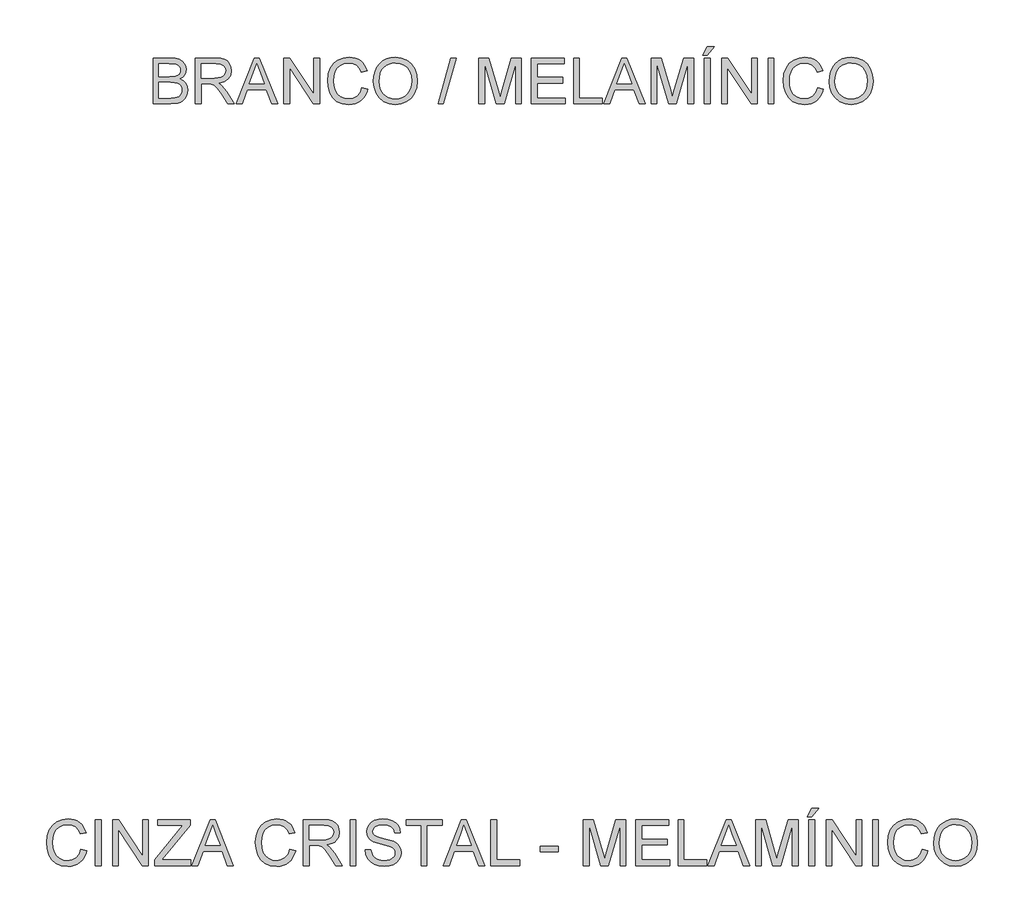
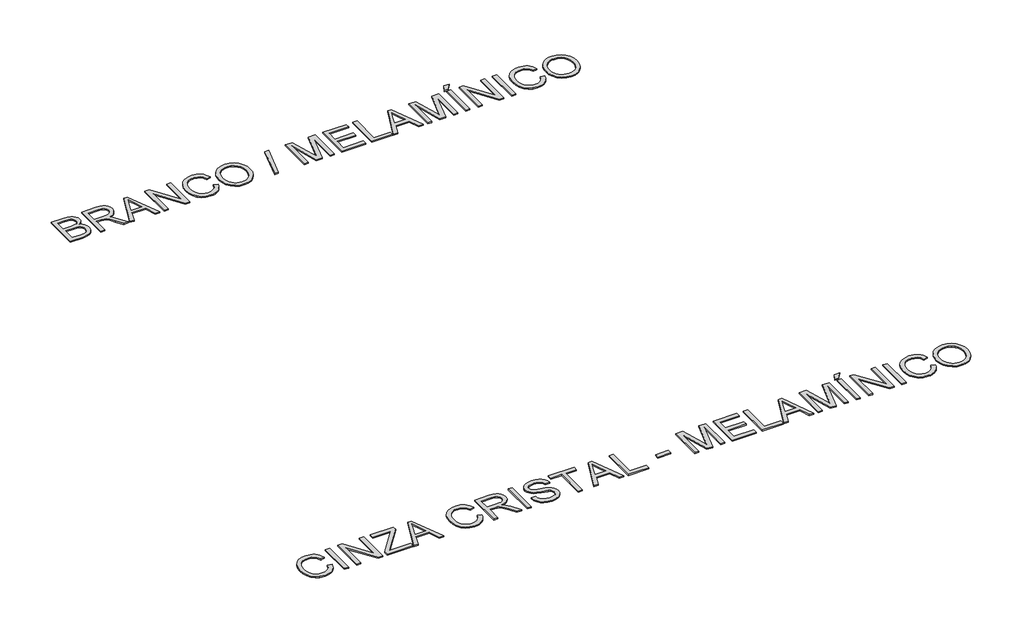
# One storey, part 33 of 67: 2 proxies.
"""IFC4 building model written with IfcOpenShell, lengths in millimetres."""

from ifc_helpers import new_model, si_unit, origin, origin_with_axes, place, context, project, spatial, polyline, outline, extrude, element, save

model = new_model("IFC4")

# Units and contexts
model_context = context("Model", 3, world=origin())
ifc_project = project(units=[si_unit("LENGTHUNIT", "METRE", prefix="MILLI")], contexts=[model_context])

# Site, building, storey
site = spatial("IfcSite", under=ifc_project)
building = spatial("IfcBuilding", under=site)
storey = spatial("IfcBuildingStorey", under=building, Name="Marelli - Linha COLAB - Planta Baixa", Elevation=0.0)

# Proxies
placement = place(None, origin())
element("IfcBuildingElementProxy", 1, Name="300mm Arial", ObjectType="300mm Arial", at=placement, inside=storey, context=model_context, shape_type="SweptSolid", body=[
    extrude(outline(polyline([(31047.4684455, -102530.5663201), (31047.4684455, -102229.1973896), (31162.4683572, -102229.1973896), (31194.0970117, -102231.4138786), (31218.7910906, -102238.0633457), (31237.7186193, -102249.3113377), (31252.047623, -102265.3234015), (31261.0699289, -102284.1589597), (31264.0773642, -102303.8774346), (31261.5481755, -102322.0232141), (31253.9606094, -102339.0837416), (31241.2594835, -102354.0105535), (31223.3896156, -102365.7551862), (31244.7359683, -102376.9020107), (31260.5089089, -102393.8613707), (31270.2485847, -102415.5112261), (31273.4951433, -102440.7295368), (31271.2786543, -102461.7447958), (31264.6291872, -102481.2333445), (31254.7055704, -102497.8064284), (31242.6666321, -102510.0752929), (31227.9237611, -102518.9596431), (31209.8883463, -102525.3791839), (31161.5854404, -102530.5663201), (31047.4684455, -102530.5663201)]), holes=[polyline([(31085.1395618, -102351.6285176), (31153.9334949, -102351.6285176), (31194.1062087, -102348.3911561), (31208.168498, -102342.8085468), (31218.2760558, -102334.4484284), (31224.3736999, -102323.4395597), (31226.4062479, -102309.9106994), (31224.5116556, -102296.7773121), (31218.8278788, -102285.3361821), (31209.6124348, -102276.4058467), (31197.1228411, -102270.8048433), (31148.7095705, -102266.8685059), (31085.1395618, -102266.8685059), (31085.1395618, -102351.6285176)]), polyline([(31085.1395618, -102492.8952038), (31162.3947808, -102492.8952038), (31190.3538124, -102491.4236758), (31214.0086247, -102483.2199073), (31229.6803977, -102466.4812765), (31234.2881197, -102454.6538704), (31235.824027, -102441.0974188), (31234.0214052, -102425.3520694), (31228.6135399, -102411.814012), (31219.1681697, -102401.2282076), (31205.2530332, -102394.3396173), (31185.5437553, -102390.5596298), (31158.7159608, -102389.2996339), (31085.1395618, -102389.2996339), (31085.1395618, -102492.8952038)])]), origin_with_axes(), (0.0, 0.0, 1.0), 10.0),
    extrude(outline(polyline([(31325.2929282, -102530.5663201), (31325.2929282, -102229.1973896), (31455.1552725, -102229.1973896), (31490.0580768, -102231.2299376), (31515.4511315, -102237.3275817), (31534.0107782, -102248.5847708), (31548.4133583, -102266.0959537), (31557.6563934, -102287.8101885), (31560.7374051, -102311.6765329), (31555.6330425, -102341.3646099), (31540.3199544, -102365.9759154), (31528.7201752, -102376.0052983), (31514.3382885, -102384.0205273), (31477.2281922, -102394.0085235), (31498.6389244, -102410.1217548), (31529.1731299, -102448.8965171), (31579.4258105, -102530.5663201), (31535.6478531, -102530.5663201), (31496.4316324, -102468.0999573), (31468.1047188, -102426.750021), (31448.2023028, -102407.2154871), (31430.2864496, -102400.0417882), (31408.4342591, -102398.717413), (31362.9640445, -102398.717413), (31362.9640445, -102530.5663201), (31325.2929282, -102530.5663201)]), holes=[polyline([(31362.9640445, -102361.0462967), (31447.2825978, -102361.0462967), (31471.4984302, -102359.7127245), (31490.2880031, -102355.7120078), (31504.4330658, -102348.7774322), (31514.7153675, -102338.6422832), (31520.9785585, -102326.3826157), (31523.0662888, -102313.0744845), (31519.0839662, -102294.6987789), (31507.1369984, -102279.8915286), (31486.581592, -102270.1242616), (31456.7739533, -102266.8685059), (31362.9640445, -102266.8685059), (31362.9640445, -102361.0462967)])]), origin_with_axes(), (0.0, 0.0, 1.0), 10.0),
    extrude(outline(polyline([(31591.5659163, -102530.5663201), (31711.8633288, -102229.1973896), (31743.9426387, -102229.1973896), (31864.2400512, -102530.5663201), (31824.4352193, -102530.5663201), (31789.9278881, -102436.3885293), (31665.804503, -102436.3885293), (31631.3707482, -102530.5663201), (31591.5659163, -102530.5663201)]), holes=[polyline([(31679.636866, -102398.717413), (31776.1691015, -102398.717413), (31749.0194103, -102324.6259792), (31727.9029837, -102266.8685059), (31709.141002, -102318.1512561), (31679.636866, -102398.717413)])]), origin_with_axes(), (0.0, 0.0, 1.0), 10.0),
    extrude(outline(polyline([(31904.4863414, -102530.5663201), (31904.4863414, -102229.1973896), (31944.8062081, -102229.1973896), (32102.259702, -102467.9528045), (32102.259702, -102229.1973896), (32139.9308183, -102229.1973896), (32139.9308183, -102530.5663201), (32099.6109517, -102530.5663201), (31942.1574577, -102291.7373288), (31942.1574577, -102530.5663201), (31904.4863414, -102530.5663201)])), origin_with_axes(), (0.0, 0.0, 1.0), 10.0),
    extrude(outline(polyline([(32417.7553011, -102423.4390831), (32455.4264174, -102433.1511677), (32447.9722085, -102456.5783531), (32438.0439931, -102477.0486868), (32425.6417714, -102494.5621691), (32410.7655432, -102509.1187997), (32393.7510009, -102520.5622291), (32374.9338369, -102528.7361071), (32354.314051, -102533.640434), (32331.8916434, -102535.2752096), (32288.1964594, -102530.3271968), (32253.4959903, -102515.4831583), (32226.898122, -102491.2581289), (32207.5107409, -102458.1671434), (32195.6741377, -102419.2636224), (32191.7286033, -102377.6009865), (32196.1891725, -102333.6574821), (32209.57088, -102295.7104543), (32231.1747502, -102264.9647166), (32260.3018072, -102242.6250824), (32294.8459265, -102229.0226457), (32332.7009838, -102224.4885001), (32374.0049348, -102230.3562179), (32391.973671, -102237.6908652), (32408.153581, -102247.9593714), (32422.2779504, -102260.8904235), (32434.0800646, -102276.2127086), (32450.7175279, -102314.0309777), (32413.0464116, -102323.0072984), (32399.9866007, -102295.5357104), (32382.144324, -102276.6909552), (32359.2988521, -102265.7924511), (32331.2294558, -102262.1596164), (32298.8742344, -102266.1879242), (32272.2947602, -102278.2728478), (32252.1256298, -102297.1451941), (32239.0014396, -102321.5357704), (32231.8001496, -102349.1085259), (32229.3997196, -102377.5274101), (32232.241608, -102412.3290468), (32240.7672732, -102442.421794), (32255.298612, -102466.6560205), (32276.1575212, -102483.8820949), (32301.1642998, -102494.1735937), (32328.1392471, -102497.6040933), (32359.5839606, -102492.931992), (32385.7863557, -102478.9156879), (32405.56921, -102455.702334), (32417.7553011, -102423.4390831)])), origin_with_axes(), (0.0, 0.0, 1.0), 10.0),
    extrude(outline(polyline([(32493.0975337, -102383.8549804), (32495.6083283, -102348.5061192), (32503.1407122, -102317.213157), (32515.6946853, -102289.9760937), (32533.2702476, -102266.7949295), (32554.8143369, -102248.2858666), (32579.2738911, -102235.0651074), (32606.64891, -102227.1326519), (32636.9393938, -102224.4885001), (32676.4683142, -102229.454907), (32711.9137444, -102244.3541278), (32741.3443041, -102268.1376988), (32762.8286126, -102299.7571563), (32775.9619998, -102337.68579), (32780.3397955, -102380.3968896), (32775.7320736, -102423.6782064), (32761.9089076, -102462.140269), (32739.6336528, -102493.8149087), (32709.6696643, -102516.733957), (32674.5277367, -102530.6398965), (32636.7186646, -102535.2752096), (32596.582739, -102530.1524528), (32560.9349736, -102514.7841825), (32531.5779904, -102490.5591531), (32510.3144111, -102458.8661192), (32497.4017531, -102422.3998164), (32493.0975337, -102383.8549804)]), holes=[polyline([(32530.76865, -102384.2228624), (32532.651746, -102409.1974513), (32538.3010339, -102431.3669401), (32547.7165137, -102450.7313286), (32560.8981854, -102467.2906169), (32576.9217456, -102480.5527628), (32594.8628906, -102490.0257242), (32614.7216206, -102495.709501), (32636.4979354, -102497.6040933), (32658.6467308, -102495.6911069), (32678.7399855, -102489.9521478), (32696.7776996, -102480.3872159), (32712.759873, -102466.9963113), (32725.8449757, -102450.0875351), (32735.1914777, -102429.9689885), (32740.7993789, -102406.6406715), (32742.6686792, -102380.102584), (32739.4681059, -102346.7540812), (32729.8663858, -102317.9305269), (32714.1118394, -102294.358488), (32692.4527869, -102276.7645316), (32666.3239682, -102265.8108452), (32637.160123, -102262.1596164), (32616.1402655, -102263.9185522), (32596.6379213, -102269.1953595), (32578.6530902, -102277.9900385), (32562.1857724, -102290.302589), (32548.4407814, -102306.7262208), (32538.6229306, -102327.8541437), (32532.7322202, -102353.6863575), (32530.76865, -102384.2228624)])]), origin_with_axes(), (0.0, 0.0, 1.0), 10.0),
    extrude(outline(polyline([(32916.8975922, -102530.5663201), (33001.6576038, -102229.1973896), (33035.6499002, -102229.1973896), (32950.8898885, -102530.5663201), (32916.8975922, -102530.5663201)])), origin_with_axes(), (0.0, 0.0, 1.0), 10.0),
    extrude(outline(polyline([(33185.3042958, -102530.5663201), (33185.3042958, -102229.1973896), (33250.1251034, -102229.1973896), (33311.7821258, -102441.6124536), (33324.2165372, -102485.9790223), (33337.6810182, -102437.9336337), (33398.307971, -102229.1973896), (33463.1287786, -102229.1973896), (33463.1287786, -102530.5663201), (33425.4576623, -102530.5663201), (33425.4576623, -102266.8685059), (33349.7475477, -102530.5663201), (33298.6855268, -102530.5663201), (33222.9754121, -102266.8685059), (33222.9754121, -102530.5663201), (33185.3042958, -102530.5663201)])), origin_with_axes(), (0.0, 0.0, 1.0), 10.0),
    extrude(outline(polyline([(33529.0532321, -102530.5663201), (33529.0532321, -102229.1973896), (33745.6621509, -102229.1973896), (33745.6621509, -102266.8685059), (33566.7243484, -102266.8685059), (33566.7243484, -102356.3374072), (33736.2443718, -102356.3374072), (33736.2443718, -102394.0085235), (33566.7243484, -102394.0085235), (33566.7243484, -102492.8952038), (33750.3710404, -102492.8952038), (33750.3710404, -102530.5663201), (33529.0532321, -102530.5663201)])), origin_with_axes(), (0.0, 0.0, 1.0), 10.0),
    extrude(outline(polyline([(33806.8777149, -102530.5663201), (33806.8777149, -102229.1973896), (33844.5488312, -102229.1973896), (33844.5488312, -102492.8952038), (33995.2332964, -102492.8952038), (33995.2332964, -102530.5663201), (33806.8777149, -102530.5663201)])), origin_with_axes(), (0.0, 0.0, 1.0), 10.0),
    extrude(outline(polyline([(34002.5173599, -102530.5663201), (34122.8147723, -102229.1973896), (34154.8940823, -102229.1973896), (34275.1914947, -102530.5663201), (34235.3866629, -102530.5663201), (34200.8793317, -102436.3885293), (34076.7559465, -102436.3885293), (34042.3221918, -102530.5663201), (34002.5173599, -102530.5663201)]), holes=[polyline([(34090.5883096, -102398.717413), (34187.1205451, -102398.717413), (34159.9708539, -102324.6259792), (34138.8544273, -102266.8685059), (34120.0924456, -102318.1512561), (34090.5883096, -102398.717413)])]), origin_with_axes(), (0.0, 0.0, 1.0), 10.0),
    extrude(outline(polyline([(34315.437785, -102530.5663201), (34315.437785, -102229.1973896), (34380.2585926, -102229.1973896), (34441.915615, -102441.6124536), (34454.3500264, -102485.9790223), (34467.8145074, -102437.9336337), (34528.4414602, -102229.1973896), (34593.2622678, -102229.1973896), (34593.2622678, -102530.5663201), (34555.5911515, -102530.5663201), (34555.5911515, -102266.8685059), (34479.8810369, -102530.5663201), (34428.8190159, -102530.5663201), (34353.1089013, -102266.8685059), (34353.1089013, -102530.5663201), (34315.437785, -102530.5663201)])), origin_with_axes(), (0.0, 0.0, 1.0), 10.0),
    extrude(outline(polyline([(34654.4778318, -102210.3618315), (34682.731169, -102153.855157), (34729.8200644, -102153.855157), (34682.731169, -102210.3618315), (34654.4778318, -102210.3618315)])), origin_with_axes(), (0.0, 0.0, 1.0), 10.0),
    extrude(outline(polyline([(34663.8956109, -102530.5663201), (34663.8956109, -102229.1973896), (34701.5667272, -102229.1973896), (34701.5667272, -102530.5663201), (34663.8956109, -102530.5663201)])), origin_with_axes(), (0.0, 0.0, 1.0), 10.0),
    extrude(outline(polyline([(34776.9089598, -102530.5663201), (34776.9089598, -102229.1973896), (34817.2288264, -102229.1973896), (34974.6823204, -102467.9528045), (34974.6823204, -102229.1973896), (35012.3534367, -102229.1973896), (35012.3534367, -102530.5663201), (34972.03357, -102530.5663201), (34814.5800761, -102291.7373288), (34814.5800761, -102530.5663201), (34776.9089598, -102530.5663201)])), origin_with_axes(), (0.0, 0.0, 1.0), 10.0),
    extrude(outline(polyline([(35082.9867798, -102530.5663201), (35082.9867798, -102229.1973896), (35120.6578961, -102229.1973896), (35120.6578961, -102530.5663201), (35082.9867798, -102530.5663201)])), origin_with_axes(), (0.0, 0.0, 1.0), 10.0),
    extrude(outline(polyline([(35407.9001579, -102423.4390831), (35445.5712742, -102433.1511677), (35438.1170653, -102456.5783531), (35428.1888499, -102477.0486868), (35415.7866282, -102494.5621691), (35400.9104, -102509.1187997), (35383.8958577, -102520.5622291), (35365.0786937, -102528.7361071), (35344.4589078, -102533.640434), (35322.0365002, -102535.2752096), (35278.3413162, -102530.3271968), (35243.6408471, -102515.4831583), (35217.0429788, -102491.2581289), (35197.6555977, -102458.1671434), (35185.8189945, -102419.2636224), (35181.8734601, -102377.6009865), (35186.3340293, -102333.6574821), (35199.7157368, -102295.7104543), (35221.319607, -102264.9647166), (35250.446664, -102242.6250824), (35284.9907833, -102229.0226457), (35322.8458406, -102224.4885001), (35364.1497916, -102230.3562179), (35382.1185278, -102237.6908652), (35398.2984378, -102247.9593714), (35412.4228072, -102260.8904235), (35424.2249214, -102276.2127086), (35440.8623847, -102314.0309777), (35403.1912684, -102323.0072984), (35390.1314575, -102295.5357104), (35372.2891808, -102276.6909552), (35349.4437089, -102265.7924511), (35321.3743126, -102262.1596164), (35289.0190912, -102266.1879242), (35262.439617, -102278.2728478), (35242.2704866, -102297.1451941), (35229.1462964, -102321.5357704), (35221.9450064, -102349.1085259), (35219.5445764, -102377.5274101), (35222.3864648, -102412.3290468), (35230.91213, -102442.421794), (35245.4434688, -102466.6560205), (35266.302378, -102483.8820949), (35291.3091566, -102494.1735937), (35318.2841039, -102497.6040933), (35349.7288174, -102492.931992), (35375.9312125, -102478.9156879), (35395.7140668, -102455.702334), (35407.9001579, -102423.4390831)])), origin_with_axes(), (0.0, 0.0, 1.0), 10.0),
    extrude(outline(polyline([(35483.2423905, -102383.8549804), (35485.7531851, -102348.5061192), (35493.285569, -102317.213157), (35505.8395421, -102289.9760937), (35523.4151044, -102266.7949295), (35544.9591937, -102248.2858666), (35569.4187479, -102235.0651074), (35596.7937668, -102227.1326519), (35627.0842506, -102224.4885001), (35666.613171, -102229.454907), (35702.0586012, -102244.3541278), (35731.4891609, -102268.1376988), (35752.9734694, -102299.7571563), (35766.1068566, -102337.68579), (35770.4846523, -102380.3968896), (35765.8769304, -102423.6782064), (35752.0537644, -102462.140269), (35729.7785096, -102493.8149087), (35699.8145211, -102516.733957), (35664.6725935, -102530.6398965), (35626.8635214, -102535.2752096), (35586.7275958, -102530.1524528), (35551.0798304, -102514.7841825), (35521.7228472, -102490.5591531), (35500.4592679, -102458.8661192), (35487.5466099, -102422.3998164), (35483.2423905, -102383.8549804)]), holes=[polyline([(35520.9135068, -102384.2228624), (35522.7966028, -102409.1974513), (35528.4458907, -102431.3669401), (35537.8613705, -102450.7313286), (35551.0430422, -102467.2906169), (35567.0666024, -102480.5527628), (35585.0077474, -102490.0257242), (35604.8664774, -102495.709501), (35626.6427922, -102497.6040933), (35648.7915876, -102495.6911069), (35668.8848423, -102489.9521478), (35686.9225564, -102480.3872159), (35702.9047298, -102466.9963113), (35715.9898325, -102450.0875351), (35725.3363345, -102429.9689885), (35730.9442356, -102406.6406715), (35732.813536, -102380.102584), (35729.6129627, -102346.7540812), (35720.0112426, -102317.9305269), (35704.2566962, -102294.358488), (35682.5976437, -102276.7645316), (35656.468825, -102265.8108452), (35627.3049798, -102262.1596164), (35606.2851223, -102263.9185522), (35586.7827781, -102269.1953595), (35568.797947, -102277.9900385), (35552.3306292, -102290.302589), (35538.5856382, -102306.7262208), (35528.7677874, -102327.8541437), (35522.877077, -102353.6863575), (35520.9135068, -102384.2228624)])]), origin_with_axes(), (0.0, 0.0, 1.0), 10.0),
])
element("IfcBuildingElementProxy", 2, Name="300mm Arial", ObjectType="300mm Arial", at=placement, inside=storey, context=model_context, shape_type="SweptSolid", body=[
    extrude(outline(polyline([(30574.2250469, -107423.4390831), (30611.8961632, -107433.1511677), (30604.4419542, -107456.5783531), (30594.5137389, -107477.0486868), (30582.1115171, -107494.5621691), (30567.235289, -107509.1187997), (30550.2207467, -107520.5622291), (30531.4035826, -107528.7361071), (30510.7837968, -107533.640434), (30488.3613892, -107535.2752096), (30444.6662052, -107530.3271968), (30409.965736, -107515.4831583), (30383.3678678, -107491.2581289), (30363.9804866, -107458.1671434), (30352.1438834, -107419.2636224), (30348.198349, -107377.6009865), (30352.6589182, -107333.6574821), (30366.0406258, -107295.7104543), (30387.644496, -107264.9647166), (30416.7715529, -107242.6250824), (30451.3156723, -107229.0226457), (30489.1707296, -107224.4885001), (30530.4746806, -107230.3562179), (30548.4434168, -107237.6908652), (30564.6233268, -107247.9593714), (30578.7476961, -107260.8904235), (30590.5498104, -107276.2127086), (30607.1872736, -107314.0309777), (30569.5161573, -107323.0072984), (30556.4563465, -107295.5357104), (30538.6140697, -107276.6909552), (30515.7685978, -107265.7924511), (30487.6992016, -107262.1596164), (30455.3439801, -107266.1879242), (30428.764506, -107278.2728478), (30408.5953756, -107297.1451941), (30395.4711854, -107321.5357704), (30388.2698954, -107349.1085259), (30385.8694653, -107377.5274101), (30388.7113538, -107412.3290468), (30397.237019, -107442.421794), (30411.7683578, -107466.6560205), (30432.6272669, -107483.8820949), (30457.6340455, -107494.1735937), (30484.6089928, -107497.6040933), (30516.0537064, -107492.931992), (30542.2561015, -107478.9156879), (30562.0389558, -107455.702334), (30574.2250469, -107423.4390831)])), origin_with_axes(), (0.0, 0.0, 1.0), 10.0),
    extrude(outline(polyline([(30668.4028376, -107530.5663201), (30668.4028376, -107229.1973896), (30706.0739539, -107229.1973896), (30706.0739539, -107530.5663201), (30668.4028376, -107530.5663201)])), origin_with_axes(), (0.0, 0.0, 1.0), 10.0),
    extrude(outline(polyline([(30781.4161866, -107530.5663201), (30781.4161866, -107229.1973896), (30821.7360532, -107229.1973896), (30979.1895472, -107467.9528045), (30979.1895472, -107229.1973896), (31016.8606635, -107229.1973896), (31016.8606635, -107530.5663201), (30976.5407968, -107530.5663201), (30819.0873029, -107291.7373288), (30819.0873029, -107530.5663201), (30781.4161866, -107530.5663201)])), origin_with_axes(), (0.0, 0.0, 1.0), 10.0),
    extrude(outline(polyline([(31059.2406693, -107530.5663201), (31059.2406693, -107491.4972522), (31213.3832253, -107302.7737887), (31242.6666321, -107266.8685059), (31078.0762275, -107266.8685059), (31078.0762275, -107229.1973896), (31289.9762567, -107229.1973896), (31289.9762567, -107266.8685059), (31121.2655737, -107473.397458), (31105.3730715, -107492.8952038), (31294.6851462, -107492.8952038), (31294.6851462, -107530.5663201), (31059.2406693, -107530.5663201)])), origin_with_axes(), (0.0, 0.0, 1.0), 10.0),
    extrude(outline(polyline([(31301.9692097, -107530.5663201), (31422.2666222, -107229.1973896), (31454.3459321, -107229.1973896), (31574.6433446, -107530.5663201), (31534.8385127, -107530.5663201), (31500.3311815, -107436.3885293), (31376.2077964, -107436.3885293), (31341.7740416, -107530.5663201), (31301.9692097, -107530.5663201)]), holes=[polyline([(31390.0401594, -107398.717413), (31486.5723949, -107398.717413), (31459.4227037, -107324.6259792), (31438.3062771, -107266.8685059), (31419.5442954, -107318.1512561), (31390.0401594, -107398.717413)])]), origin_with_axes(), (0.0, 0.0, 1.0), 10.0),
    extrude(outline(polyline([(31944.5119025, -107423.4390831), (31982.1830188, -107433.1511677), (31974.7288099, -107456.5783531), (31964.8005945, -107477.0486868), (31952.3983728, -107494.5621691), (31937.5221446, -107509.1187997), (31920.5076023, -107520.5622291), (31901.6904383, -107528.7361071), (31881.0706524, -107533.640434), (31858.6482448, -107535.2752096), (31814.9530609, -107530.3271968), (31780.2525917, -107515.4831583), (31753.6547234, -107491.2581289), (31734.2673423, -107458.1671434), (31722.4307391, -107419.2636224), (31718.4852047, -107377.6009865), (31722.9457739, -107333.6574821), (31736.3274814, -107295.7104543), (31757.9313516, -107264.9647166), (31787.0584086, -107242.6250824), (31821.6025279, -107229.0226457), (31859.4575852, -107224.4885001), (31900.7615362, -107230.3562179), (31918.7302724, -107237.6908652), (31934.9101824, -107247.9593714), (31949.0345518, -107260.8904235), (31960.836666, -107276.2127086), (31977.4741293, -107314.0309777), (31939.803013, -107323.0072984), (31926.7432021, -107295.5357104), (31908.9009254, -107276.6909552), (31886.0554535, -107265.7924511), (31857.9860572, -107262.1596164), (31825.6308358, -107266.1879242), (31799.0513616, -107278.2728478), (31778.8822312, -107297.1451941), (31765.758041, -107321.5357704), (31758.556751, -107349.1085259), (31756.156321, -107377.5274101), (31758.9982094, -107412.3290468), (31767.5238746, -107442.421794), (31782.0552134, -107466.6560205), (31802.9141226, -107483.8820949), (31827.9209012, -107494.1735937), (31854.8958485, -107497.6040933), (31886.340562, -107492.931992), (31912.5429571, -107478.9156879), (31932.3258114, -107455.702334), (31944.5119025, -107423.4390831)])), origin_with_axes(), (0.0, 0.0, 1.0), 10.0),
    extrude(outline(polyline([(32033.9808037, -107530.5663201), (32033.9808037, -107229.1973896), (32163.843148, -107229.1973896), (32198.7459523, -107231.2299376), (32224.139007, -107237.3275817), (32242.6986537, -107248.5847708), (32257.1012338, -107266.0959537), (32266.3442689, -107287.8101885), (32269.4252806, -107311.6765329), (32264.320918, -107341.3646099), (32249.0078299, -107365.9759154), (32237.4080508, -107376.0052983), (32223.026164, -107384.0205273), (32185.9160677, -107394.0085235), (32207.3267999, -107410.1217548), (32237.8610055, -107448.8965171), (32288.113686, -107530.5663201), (32244.3357286, -107530.5663201), (32205.1195079, -107468.0999573), (32176.7925943, -107426.750021), (32156.8901783, -107407.2154871), (32138.9743252, -107400.0417882), (32117.1221346, -107398.717413), (32071.65192, -107398.717413), (32071.65192, -107530.5663201), (32033.9808037, -107530.5663201)]), holes=[polyline([(32071.65192, -107361.0462967), (32155.9704733, -107361.0462967), (32180.1863057, -107359.7127245), (32198.9758786, -107355.7120078), (32213.1209413, -107348.7774322), (32223.403243, -107338.6422832), (32229.666434, -107326.3826157), (32231.7541643, -107313.0744845), (32227.7718417, -107294.6987789), (32215.8248739, -107279.8915286), (32195.2694675, -107270.1242616), (32165.4618288, -107266.8685059), (32071.65192, -107266.8685059), (32071.65192, -107361.0462967)])]), origin_with_axes(), (0.0, 0.0, 1.0), 10.0),
    extrude(outline(polyline([(32340.0586237, -107530.5663201), (32340.0586237, -107229.1973896), (32377.72974, -107229.1973896), (32377.72974, -107530.5663201), (32340.0586237, -107530.5663201)])), origin_with_axes(), (0.0, 0.0, 1.0), 10.0),
    extrude(outline(polyline([(32438.945304, -107426.9707502), (32476.6164203, -107426.9707502), (32480.9390338, -107447.8756446), (32488.7565262, -107464.6786547), (32500.9518143, -107478.0143771), (32518.407815, -107488.517408), (32539.7449707, -107495.332422), (32563.583724, -107497.6040933), (32584.5713918, -107495.884245), (32602.9470975, -107490.7247), (32617.8371212, -107482.5577197), (32628.3677433, -107471.8155654), (32634.6309343, -107459.4823215), (32636.7186646, -107446.5420724), (32635.1551661, -107433.932917), (32630.4646707, -107423.0344129), (32620.936527, -107413.7361954), (32604.8600838, -107405.9279001), (32550.0088784, -107391.5437141), (32514.0024281, -107382.0247675), (32490.9638181, -107372.9656733), (32472.2110334, -107360.2921386), (32458.9212964, -107344.9330653), (32451.0026364, -107327.2195472), (32448.3630831, -107307.4826782), (32451.6280358, -107285.4189555), (32461.4228939, -107264.845155), (32477.4901401, -107247.4075484), (32499.5722568, -107234.7524077), (32526.0781546, -107227.054477), (32555.4167437, -107224.4885001), (32587.2017481, -107227.1740386), (32615.0136269, -107235.2306543), (32637.8590988, -107248.4928003), (32654.7448824, -107266.7949295), (32665.4318544, -107288.9966079), (32669.6808914, -107313.9574013), (32632.0097751, -107313.9574013), (32625.0935936, -107291.4798114), (32610.6726194, -107275.2562154), (32588.1398472, -107265.4337661), (32556.8882717, -107262.1596164), (32524.9009322, -107265.3969779), (32502.9567712, -107275.1090626), (32490.2648423, -107289.4012781), (32486.0341994, -107306.3790322), (32489.0324377, -107320.8551887), (32498.0271524, -107332.4986539), (32519.2907318, -107342.9097143), (32559.537022, -107353.541504), (32601.0708993, -107363.6398648), (32626.1972396, -107372.4506385), (32647.672351, -107386.1174547), (32662.6543453, -107402.9848441), (32671.455922, -107422.868866), (32674.3897809, -107445.5855792), (32671.0144636, -107468.8081301), (32660.8885117, -107490.6511236), (32644.4257924, -107509.4498935), (32622.040173, -107523.539774), (32595.120408, -107532.3413507), (32565.055252, -107535.2752096), (32528.1474908, -107532.1114244), (32497.7696351, -107522.620069), (32473.5721968, -107506.764355), (32455.2056882, -107484.5074943), (32443.4150703, -107457.3945912), (32438.945304, -107426.9707502)])), origin_with_axes(), (0.0, 0.0, 1.0), 10.0),
    extrude(outline(polyline([(32806.238688, -107530.5663201), (32806.238688, -107266.8685059), (32707.3520077, -107266.8685059), (32707.3520077, -107229.1973896), (32942.7964846, -107229.1973896), (32942.7964846, -107266.8685059), (32843.9098043, -107266.8685059), (32843.9098043, -107530.5663201), (32806.238688, -107530.5663201)])), origin_with_axes(), (0.0, 0.0, 1.0), 10.0),
    extrude(outline(polyline([(32950.0805481, -107530.5663201), (33070.3779605, -107229.1973896), (33102.4572705, -107229.1973896), (33222.7546829, -107530.5663201), (33182.9498511, -107530.5663201), (33148.4425199, -107436.3885293), (33024.3191347, -107436.3885293), (32989.88538, -107530.5663201), (32950.0805481, -107530.5663201)]), holes=[polyline([(33038.1514978, -107398.717413), (33134.6837333, -107398.717413), (33107.5340421, -107324.6259792), (33086.4176155, -107266.8685059), (33067.6556338, -107318.1512561), (33038.1514978, -107398.717413)])]), origin_with_axes(), (0.0, 0.0, 1.0), 10.0),
    extrude(outline(polyline([(33263.0009732, -107530.5663201), (33263.0009732, -107229.1973896), (33300.6720895, -107229.1973896), (33300.6720895, -107492.8952038), (33451.3565547, -107492.8952038), (33451.3565547, -107530.5663201), (33263.0009732, -107530.5663201)])), origin_with_axes(), (0.0, 0.0, 1.0), 10.0),
    extrude(outline(polyline([(33587.9143514, -107441.0974188), (33587.9143514, -107403.4263025), (33705.6365898, -107403.4263025), (33705.6365898, -107441.0974188), (33587.9143514, -107441.0974188)])), origin_with_axes(), (0.0, 0.0, 1.0), 10.0),
    extrude(outline(polyline([(33870.4477237, -107530.5663201), (33870.4477237, -107229.1973896), (33935.2685312, -107229.1973896), (33996.9255536, -107441.6124536), (34009.359965, -107485.9790223), (34022.8244461, -107437.9336337), (34083.4513989, -107229.1973896), (34148.2722064, -107229.1973896), (34148.2722064, -107530.5663201), (34110.6010901, -107530.5663201), (34110.6010901, -107266.8685059), (34034.8909755, -107530.5663201), (33983.8289546, -107530.5663201), (33908.11884, -107266.8685059), (33908.11884, -107530.5663201), (33870.4477237, -107530.5663201)])), origin_with_axes(), (0.0, 0.0, 1.0), 10.0),
    extrude(outline(polyline([(34214.1966599, -107530.5663201), (34214.1966599, -107229.1973896), (34430.8055787, -107229.1973896), (34430.8055787, -107266.8685059), (34251.8677763, -107266.8685059), (34251.8677763, -107356.3374072), (34421.3877996, -107356.3374072), (34421.3877996, -107394.0085235), (34251.8677763, -107394.0085235), (34251.8677763, -107492.8952038), (34435.5144682, -107492.8952038), (34435.5144682, -107530.5663201), (34214.1966599, -107530.5663201)])), origin_with_axes(), (0.0, 0.0, 1.0), 10.0),
    extrude(outline(polyline([(34492.0211427, -107530.5663201), (34492.0211427, -107229.1973896), (34529.692259, -107229.1973896), (34529.692259, -107492.8952038), (34680.3767242, -107492.8952038), (34680.3767242, -107530.5663201), (34492.0211427, -107530.5663201)])), origin_with_axes(), (0.0, 0.0, 1.0), 10.0),
    extrude(outline(polyline([(34687.6607877, -107530.5663201), (34807.9582002, -107229.1973896), (34840.0375101, -107229.1973896), (34960.3349226, -107530.5663201), (34920.5300907, -107530.5663201), (34886.0227595, -107436.3885293), (34761.8993744, -107436.3885293), (34727.4656196, -107530.5663201), (34687.6607877, -107530.5663201)]), holes=[polyline([(34775.7317374, -107398.717413), (34872.2639729, -107398.717413), (34845.1142817, -107324.6259792), (34823.9978552, -107266.8685059), (34805.2358734, -107318.1512561), (34775.7317374, -107398.717413)])]), origin_with_axes(), (0.0, 0.0, 1.0), 10.0),
    extrude(outline(polyline([(35000.5812128, -107530.5663201), (35000.5812128, -107229.1973896), (35065.4020204, -107229.1973896), (35127.0590428, -107441.6124536), (35139.4934542, -107485.9790223), (35152.9579352, -107437.9336337), (35213.584888, -107229.1973896), (35278.4056956, -107229.1973896), (35278.4056956, -107530.5663201), (35240.7345793, -107530.5663201), (35240.7345793, -107266.8685059), (35165.0244647, -107530.5663201), (35113.9624438, -107530.5663201), (35038.2523291, -107266.8685059), (35038.2523291, -107530.5663201), (35000.5812128, -107530.5663201)])), origin_with_axes(), (0.0, 0.0, 1.0), 10.0),
    extrude(outline(polyline([(35349.0390387, -107530.5663201), (35349.0390387, -107229.1973896), (35386.710155, -107229.1973896), (35386.710155, -107530.5663201), (35349.0390387, -107530.5663201)])), origin_with_axes(), (0.0, 0.0, 1.0), 10.0),
    extrude(outline(polyline([(35339.6212596, -107210.3618315), (35367.8745968, -107153.855157), (35414.9634922, -107153.855157), (35367.8745968, -107210.3618315), (35339.6212596, -107210.3618315)])), origin_with_axes(), (0.0, 0.0, 1.0), 10.0),
    extrude(outline(polyline([(35462.0523876, -107530.5663201), (35462.0523876, -107229.1973896), (35502.3722543, -107229.1973896), (35659.8257482, -107467.9528045), (35659.8257482, -107229.1973896), (35697.4968645, -107229.1973896), (35697.4968645, -107530.5663201), (35657.1769978, -107530.5663201), (35499.7235039, -107291.7373288), (35499.7235039, -107530.5663201), (35462.0523876, -107530.5663201)])), origin_with_axes(), (0.0, 0.0, 1.0), 10.0),
    extrude(outline(polyline([(35768.1302076, -107530.5663201), (35768.1302076, -107229.1973896), (35805.8013239, -107229.1973896), (35805.8013239, -107530.5663201), (35768.1302076, -107530.5663201)])), origin_with_axes(), (0.0, 0.0, 1.0), 10.0),
    extrude(outline(polyline([(36093.0435857, -107423.4390831), (36130.714702, -107433.1511677), (36123.2604931, -107456.5783531), (36113.3322777, -107477.0486868), (36100.930056, -107494.5621691), (36086.0538278, -107509.1187997), (36069.0392855, -107520.5622291), (36050.2221215, -107528.7361071), (36029.6023356, -107533.640434), (36007.179928, -107535.2752096), (35963.4847441, -107530.3271968), (35928.7842749, -107515.4831583), (35902.1864066, -107491.2581289), (35882.7990255, -107458.1671434), (35870.9624223, -107419.2636224), (35867.0168879, -107377.6009865), (35871.4774571, -107333.6574821), (35884.8591646, -107295.7104543), (35906.4630348, -107264.9647166), (35935.5900918, -107242.6250824), (35970.1342111, -107229.0226457), (36007.9892684, -107224.4885001), (36049.2932194, -107230.3562179), (36067.2619556, -107237.6908652), (36083.4418656, -107247.9593714), (36097.566235, -107260.8904235), (36109.3683492, -107276.2127086), (36126.0058125, -107314.0309777), (36088.3346962, -107323.0072984), (36075.2748853, -107295.5357104), (36057.4326086, -107276.6909552), (36034.5871367, -107265.7924511), (36006.5177404, -107262.1596164), (35974.162519, -107266.1879242), (35947.5830448, -107278.2728478), (35927.4139144, -107297.1451941), (35914.2897243, -107321.5357704), (35907.0884342, -107349.1085259), (35904.6880042, -107377.5274101), (35907.5298926, -107412.3290468), (35916.0555578, -107442.421794), (35930.5868966, -107466.6560205), (35951.4458058, -107483.8820949), (35976.4525844, -107494.1735937), (36003.4275317, -107497.6040933), (36034.8722452, -107492.931992), (36061.0746403, -107478.9156879), (36080.8574946, -107455.702334), (36093.0435857, -107423.4390831)])), origin_with_axes(), (0.0, 0.0, 1.0), 10.0),
    extrude(outline(polyline([(36168.3858183, -107383.8549804), (36170.8966129, -107348.5061192), (36178.4289968, -107317.213157), (36190.9829699, -107289.9760937), (36208.5585322, -107266.7949295), (36230.1026215, -107248.2858666), (36254.5621757, -107235.0651074), (36281.9371947, -107227.1326519), (36312.2276784, -107224.4885001), (36351.7565988, -107229.454907), (36387.2020291, -107244.3541278), (36416.6325887, -107268.1376988), (36438.1168972, -107299.7571563), (36451.2502844, -107337.68579), (36455.6280802, -107380.3968896), (36451.0203582, -107423.6782064), (36437.1971922, -107462.140269), (36414.9219374, -107493.8149087), (36384.9579489, -107516.733957), (36349.8160213, -107530.6398965), (36312.0069492, -107535.2752096), (36271.8710236, -107530.1524528), (36236.2232582, -107514.7841825), (36206.866275, -107490.5591531), (36185.6026957, -107458.8661192), (36172.6900377, -107422.3998164), (36168.3858183, -107383.8549804)]), holes=[polyline([(36206.0569346, -107384.2228624), (36207.9400306, -107409.1974513), (36213.5893185, -107431.3669401), (36223.0047983, -107450.7313286), (36236.18647, -107467.2906169), (36252.2100302, -107480.5527628), (36270.1511752, -107490.0257242), (36290.0099052, -107495.709501), (36311.78622, -107497.6040933), (36333.9350154, -107495.6911069), (36354.0282701, -107489.9521478), (36372.0659842, -107480.3872159), (36388.0481576, -107466.9963113), (36401.1332604, -107450.0875351), (36410.4797623, -107429.9689885), (36416.0876635, -107406.6406715), (36417.9569639, -107380.102584), (36414.7563905, -107346.7540812), (36405.1546704, -107317.9305269), (36389.400124, -107294.358488), (36367.7410715, -107276.7645316), (36341.6122528, -107265.8108452), (36312.4484076, -107262.1596164), (36291.4285501, -107263.9185522), (36271.9262059, -107269.1953595), (36253.9413748, -107277.9900385), (36237.474057, -107290.302589), (36223.729066, -107306.7262208), (36213.9112152, -107327.8541437), (36208.0205048, -107353.6863575), (36206.0569346, -107384.2228624)])]), origin_with_axes(), (0.0, 0.0, 1.0), 10.0),
])

save(model, "model.ifc")
